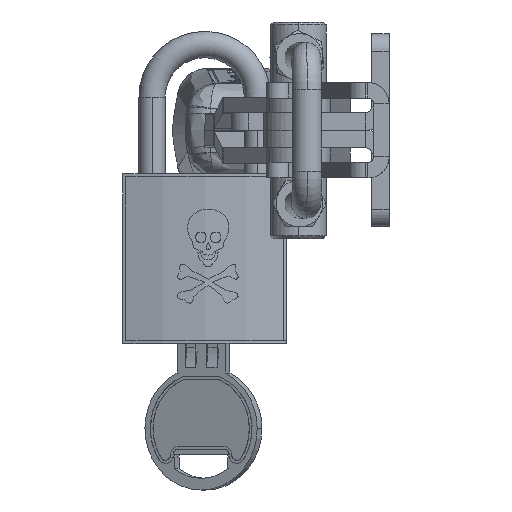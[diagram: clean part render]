
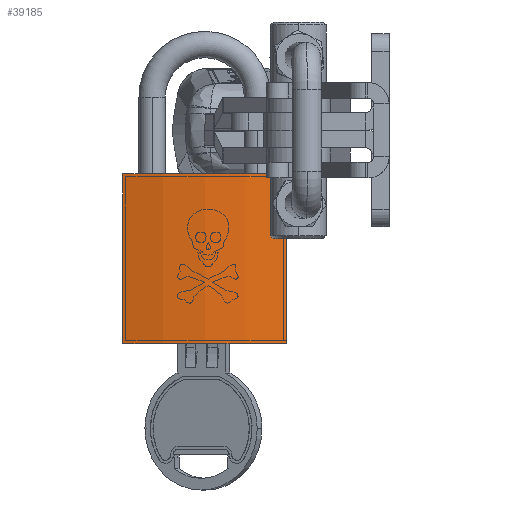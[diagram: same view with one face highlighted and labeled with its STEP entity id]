
A CAD part, left-side view. The second image highlights one B-rep face of the part: STEP entity #39185.
In plain terms, the highlighted cylindrical face has radius 50 mm (diameter 100 mm), a partial arc.
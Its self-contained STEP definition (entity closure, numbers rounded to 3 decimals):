
#513 = AXIS2_PLACEMENT_3D ( 'NONE', #21888, #47936, #25638 ) ;
#789 = EDGE_CURVE ( 'NONE', #40759, #5032, #26810, .T. ) ;
#1159 = DIRECTION ( 'NONE',  ( 0., 1., 0. ) ) ;
#2364 = LINE ( 'NONE', #46062, #11127 ) ;
#3459 = DIRECTION ( 'NONE',  ( 0., 0., -1. ) ) ;
#3561 = DIRECTION ( 'NONE',  ( 0., -1., 0. ) ) ;
#5032 = VERTEX_POINT ( 'NONE', #11544 ) ;
#5302 = EDGE_CURVE ( 'NONE', #5032, #38559, #18437, .T. ) ;
#5545 = AXIS2_PLACEMENT_3D ( 'NONE', #29124, #7213, #3459 ) ;
#7213 = DIRECTION ( 'NONE',  ( 0., -1., 0. ) ) ;
#8446 = ORIENTED_EDGE ( 'NONE', *, *, #789, .F. ) ;
#10356 = FACE_OUTER_BOUND ( 'NONE', #12362, .T. ) ;
#11127 = VECTOR ( 'NONE', #20017, 1000. ) ;
#11544 = CARTESIAN_POINT ( 'NONE',  ( 5., 29., -14. ) ) ;
#12362 = EDGE_LOOP ( 'NONE', ( #13364, #28491, #8446, #48033 ) ) ;
#13364 = ORIENTED_EDGE ( 'NONE', *, *, #20856, .T. ) ;
#18434 = CARTESIAN_POINT ( 'NONE',  ( 5., 29., -14. ) ) ;
#18437 = LINE ( 'NONE', #18434, #35904 ) ;
#20017 = DIRECTION ( 'NONE',  ( 0., -1., 0. ) ) ;
#20372 = EDGE_CURVE ( 'NONE', #40759, #21976, #2364, .T. ) ;
#20700 = CARTESIAN_POINT ( 'NONE',  ( 5., 0., -14. ) ) ;
#20856 = EDGE_CURVE ( 'NONE', #21976, #38559, #29247, .T. ) ;
#21888 = CARTESIAN_POINT ( 'NONE',  ( -43., 29., 0. ) ) ;
#21976 = VERTEX_POINT ( 'NONE', #41469 ) ;
#23611 = CARTESIAN_POINT ( 'NONE',  ( -43., 0., 0. ) ) ;
#25638 = DIRECTION ( 'NONE',  ( 0., 0., -1. ) ) ;
#26810 = CIRCLE ( 'NONE', #513, 50. ) ;
#27328 = DIRECTION ( 'NONE',  ( 0., 0., -1. ) ) ;
#28491 = ORIENTED_EDGE ( 'NONE', *, *, #5302, .F. ) ;
#29124 = CARTESIAN_POINT ( 'NONE',  ( -43., 29., 0. ) ) ;
#29247 = CIRCLE ( 'NONE', #41662, 50. ) ;
#34749 = CARTESIAN_POINT ( 'NONE',  ( 5., 29., 14. ) ) ;
#35904 = VECTOR ( 'NONE', #3561, 1000. ) ;
#38559 = VERTEX_POINT ( 'NONE', #20700 ) ;
#39185 = ADVANCED_FACE ( 'NONE', ( #10356 ), #47719, .T. ) ;
#40759 = VERTEX_POINT ( 'NONE', #34749 ) ;
#41469 = CARTESIAN_POINT ( 'NONE',  ( 5., 0., 14. ) ) ;
#41662 = AXIS2_PLACEMENT_3D ( 'NONE', #23611, #1159, #27328 ) ;
#46062 = CARTESIAN_POINT ( 'NONE',  ( 5., 29., 14. ) ) ;
#47719 = CYLINDRICAL_SURFACE ( 'NONE', #5545, 50. ) ;
#47936 = DIRECTION ( 'NONE',  ( 0., 1., 0. ) ) ;
#48033 = ORIENTED_EDGE ( 'NONE', *, *, #20372, .T. ) ;
